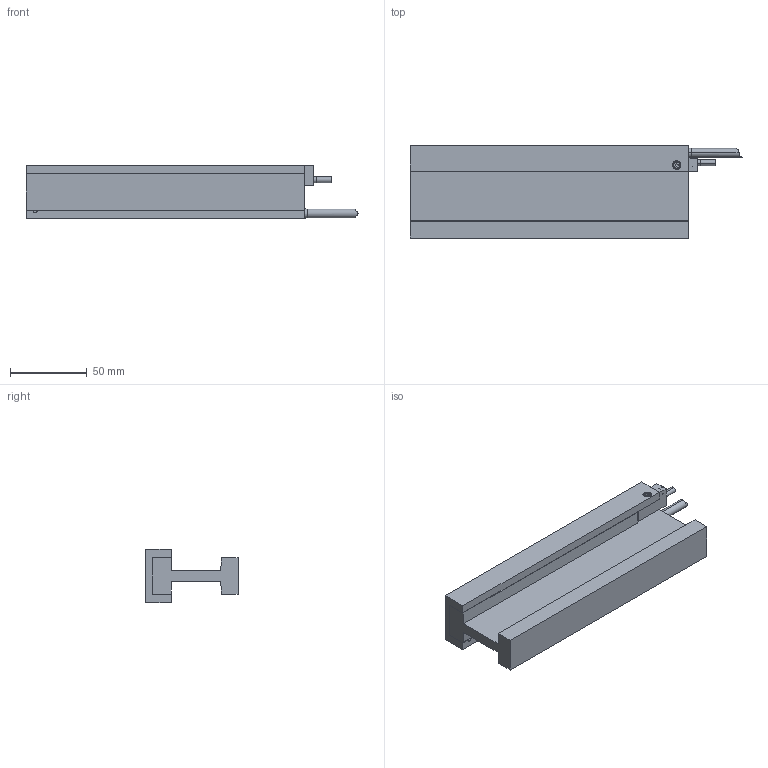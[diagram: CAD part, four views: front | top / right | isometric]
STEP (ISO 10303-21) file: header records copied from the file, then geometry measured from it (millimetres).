
FILE_DESCRIPTION (( 'STEP AP214' ), '1' );
FILE_NAME ('DX30F-C3 -REV.step', '2022-05-06T02:56:47', ( '' ), ( '' ), 'SwSTEP 2.0', 'SolidWorks 2020', '' );
FILE_SCHEMA (( 'AUTOMOTIVE_DESIGN' ));
Length unit declared in the file: millimetre
Products named in the file (1): DX30F-C3 -REV
Bounding box: 216 x 60 x 35 mm (x, y, z)
Volume: 193097.4 mm3; surface area: 63299.4 mm2
Topology: 7 solids, 8 shells, 198 faces, 466 edges, 274 vertices
Faces by surface type: plane 89, cylinder 61, cone 40, torus 8
Entity records: 7733 total; most frequent: CARTESIAN_POINT 1002, DIRECTION 970, ORIENTED_EDGE 868, EDGE_CURVE 434, AXIS2_PLACEMENT_3D 350, VERTEX_POINT 274, LINE 270, VECTOR 270
